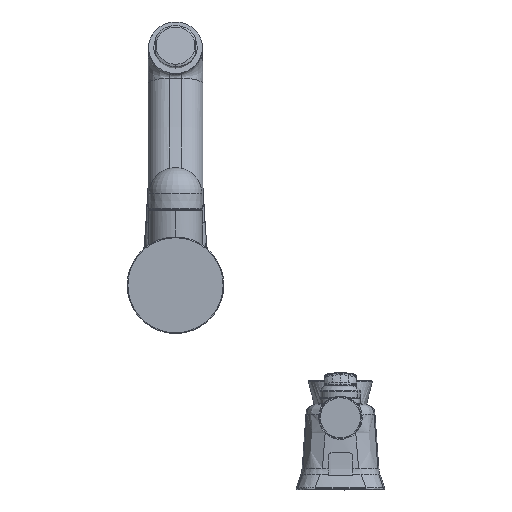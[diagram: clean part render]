
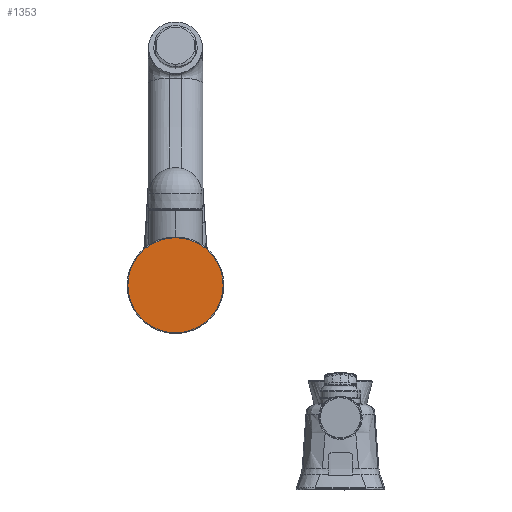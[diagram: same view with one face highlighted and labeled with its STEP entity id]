
A CAD part, front view. The second image highlights one B-rep face of the part: STEP entity #1353.
In plain terms, the highlighted planar face has unit normal (0, -1, 0).
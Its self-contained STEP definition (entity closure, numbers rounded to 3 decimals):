
#1353 = ADVANCED_FACE ( 'NONE', ( #56985 ), #14875, .T. ) ;
#2486 = CIRCLE ( 'NONE', #48354, 26.461 ) ;
#8925 = VERTEX_POINT ( 'NONE', #32278 ) ;
#11277 = CARTESIAN_POINT ( 'NONE',  ( 80.483, 298.769, 602.902 ) ) ;
#11683 = DIRECTION ( 'NONE',  ( 0., -1., 0. ) ) ;
#11755 = CARTESIAN_POINT ( 'NONE',  ( 54.022, 298.769, 602.902 ) ) ;
#14875 = PLANE ( 'NONE',  #51308 ) ;
#15224 = EDGE_CURVE ( 'NONE', #8925, #75627, #2486, .T. ) ;
#15434 = DIRECTION ( 'NONE',  ( 0., 0., 1. ) ) ;
#26027 = ORIENTED_EDGE ( 'NONE', *, *, #65432, .T. ) ;
#32278 = CARTESIAN_POINT ( 'NONE',  ( 106.944, 298.769, 602.902 ) ) ;
#34007 = DIRECTION ( 'NONE',  ( 0., -1., 0. ) ) ;
#36682 = DIRECTION ( 'NONE',  ( 0., -1., 0. ) ) ;
#37353 = CARTESIAN_POINT ( 'NONE',  ( 80.483, 298.769, 602.902 ) ) ;
#39803 = AXIS2_PLACEMENT_3D ( 'NONE', #11277, #36682, #62027 ) ;
#40856 = CARTESIAN_POINT ( 'NONE',  ( 56.483, 298.769, 602.902 ) ) ;
#48354 = AXIS2_PLACEMENT_3D ( 'NONE', #37353, #11683, #55360 ) ;
#49256 = ORIENTED_EDGE ( 'NONE', *, *, #15224, .T. ) ;
#51308 = AXIS2_PLACEMENT_3D ( 'NONE', #40856, #34007, #15434 ) ;
#55360 = DIRECTION ( 'NONE',  ( -1., 0., 0. ) ) ;
#56985 = FACE_OUTER_BOUND ( 'NONE', #65914, .T. ) ;
#62027 = DIRECTION ( 'NONE',  ( -1., 0., 0. ) ) ;
#65432 = EDGE_CURVE ( 'NONE', #75627, #8925, #73053, .T. ) ;
#65914 = EDGE_LOOP ( 'NONE', ( #26027, #49256 ) ) ;
#73053 = CIRCLE ( 'NONE', #39803, 26.461 ) ;
#75627 = VERTEX_POINT ( 'NONE', #11755 ) ;
